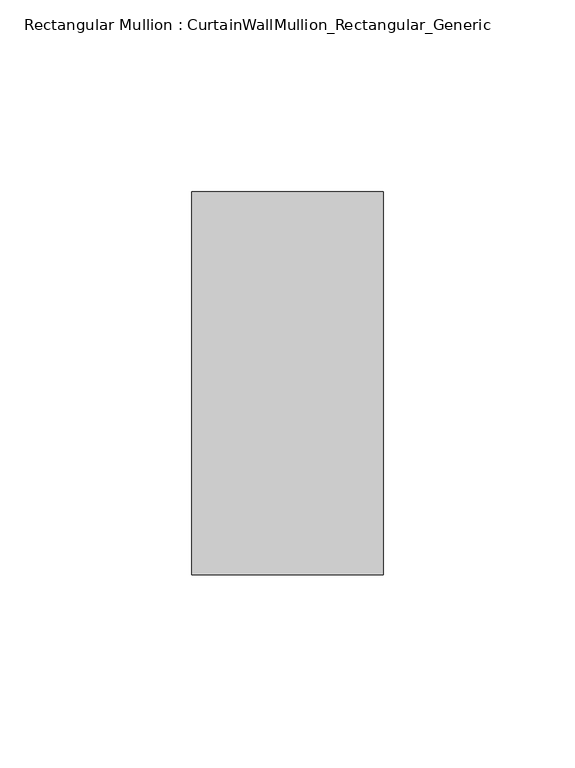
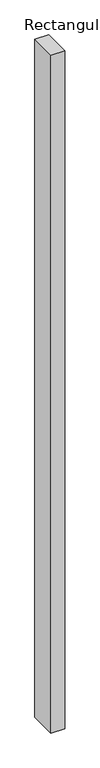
"""IFC4 building model written with IfcOpenShell, lengths in millimetres: member geometry, Rectangular Mullion : CurtainWallMullion_Rectangular_Generic."""

import ifcopenshell
import ifcopenshell.guid

model = None  # the IFC model being written
_history = None  # IfcOwnerHistory: only IFC2X3 demands one
_inside = {}  # id of a spatial element -> (the spatial element, [elements in it])
_under = {}  # id of a project, library or spatial element -> (it, [spatial elements below it])
_declared = {}  # id of a project -> (the project, [libraries it declares])
_typed = {}  # id of a type object -> (the type object, [elements of that type])
_made_of = {}  # id of a material, layer set ... -> (it, [elements and type objects made of it])


def new_model(schema):
    """Start an empty IFC model of exactly this schema.

    Asked for "IFC4X3", IfcOpenShell would pick the latest addendum, in which some entities
    have other attributes; the version numbers below select the first issue.
    IFC2X3 requires an IfcOwnerHistory on every rooted entity: one is made here for all.
    """
    global model, _history
    if schema == "IFC4X3":
        model = ifcopenshell.file(schema_version=(4, 3, 0, 0))
    else:
        model = ifcopenshell.file(schema=schema)
    _inside.clear()
    _under.clear()
    _declared.clear()
    _typed.clear()
    _made_of.clear()
    _history = None
    if model.schema == "IFC2X3":
        org = make("IfcOrganization", Name="unknown")
        user = make(
            "IfcPersonAndOrganization",
            ThePerson=make("IfcPerson", FamilyName="unknown"),
            TheOrganization=org,
        )
        app = make(
            "IfcApplication",
            ApplicationDeveloper=org,
            Version="unknown",
            ApplicationFullName="unknown",
            ApplicationIdentifier="unknown",
        )
        _history = make(
            "IfcOwnerHistory",
            OwningUser=user,
            OwningApplication=app,
            ChangeAction="ADDED",
            CreationDate=0,
        )
    return model


def make(cls, **values):
    """One entity of the class cls with the attributes given. An attribute that is None is left unset."""
    return model.create_entity(
        cls, **{name: value for name, value in values.items() if value is not None}
    )


def rooted(cls, **values):
    """An entity with a GlobalId (a new one), such as an element, a storey or a relation."""
    return make(cls, GlobalId=ifcopenshell.guid.new(), OwnerHistory=_history, **values)


def si_unit(unit_type, name, prefix=None):
    """IfcSIUnit, for example si_unit("LENGTHUNIT", "METRE", prefix="MILLI")."""
    return make("IfcSIUnit", UnitType=unit_type, Prefix=prefix, Name=name)


def assignment(units):
    """IfcUnitAssignment: the units of a project."""
    return None if units is None else make("IfcUnitAssignment", Units=units)


def point(xyz):
    """IfcCartesianPoint."""
    return None if xyz is None else make("IfcCartesianPoint", Coordinates=xyz)


def direction(xyz):
    """IfcDirection."""
    return None if xyz is None else make("IfcDirection", DirectionRatios=xyz)


def frame(location, z_axis=None, x_axis=None):
    """IfcAxis2Placement3D, a coordinate frame: its origin and axes. An axis left out is left unset."""
    return make(
        "IfcAxis2Placement3D",
        Location=point(location),
        Axis=direction(z_axis),
        RefDirection=direction(x_axis),
    )


def origin():
    """The frame at (0, 0, 0) with its axes left unset."""
    return frame((0.0, 0.0, 0.0))


def place(relative_to, where):
    """IfcLocalPlacement: puts the frame where relative to a parent placement (None: the world)."""
    return make(
        "IfcLocalPlacement", PlacementRelTo=relative_to, RelativePlacement=where
    )


def context(
    kind, dimensions, precision=None, world=None, true_north=None, identifier=None
):
    """IfcGeometricRepresentationContext, for example the 3D "Model" context."""
    return make(
        "IfcGeometricRepresentationContext",
        ContextIdentifier=identifier,
        ContextType=kind,
        CoordinateSpaceDimension=dimensions,
        Precision=precision,
        WorldCoordinateSystem=world,
        TrueNorth=true_north,
    )


def project(units=None, contexts=None):
    """IfcProject with its units and contexts."""
    return rooted(
        "IfcProject",
        Name="project",
        RepresentationContexts=contexts,
        UnitsInContext=assignment(units),
    )


def spatial(cls, under=None, at=None, **own):
    """A site, building, storey or space (cls), placed at a placement, below another one or the project."""
    s = rooted(cls, ObjectPlacement=at, **own)
    if under is not None:
        _under.setdefault(under.id(), (under, []))[1].append(s)
    return s


def polyline(points):
    """IfcPolyline through the points."""
    return make("IfcPolyline", Points=[point(p) for p in points])


def outline(outer, holes=None, kind="AREA"):
    """IfcArbitraryClosedProfileDef: a profile drawn as a closed curve; with holes, ...WithVoids."""
    if holes is None:
        return make("IfcArbitraryClosedProfileDef", ProfileType=kind, OuterCurve=outer)
    return make(
        "IfcArbitraryProfileDefWithVoids",
        ProfileType=kind,
        OuterCurve=outer,
        InnerCurves=holes,
    )


def extrude(swept, where, along, depth):
    """IfcExtrudedAreaSolid: the profile swept, set in the frame where, extruded along a direction by depth."""
    return make(
        "IfcExtrudedAreaSolid",
        SweptArea=swept,
        Position=where,
        ExtrudedDirection=direction(along),
        Depth=depth,
    )


def shape(context_of_items, identifier, shape_type, items):
    """IfcShapeRepresentation: the items that make up one representation, for example the "Body"."""
    return make(
        "IfcShapeRepresentation",
        ContextOfItems=context_of_items,
        RepresentationIdentifier=identifier,
        RepresentationType=shape_type,
        Items=items,
    )


def source(mapping_origin, context_of_items, identifier, shape_type, items):
    """IfcRepresentationMap: a shape defined once, which mapped items show again and again."""
    return make(
        "IfcRepresentationMap",
        MappingOrigin=mapping_origin,
        MappedRepresentation=shape(context_of_items, identifier, shape_type, items),
    )


def transform(
    local_origin,
    x_axis=None,
    y_axis=None,
    z_axis=None,
    scale=None,
    scale2=None,
    scale3=None,
    uniform=True,
):
    """IfcCartesianTransformationOperator3D, or its non-uniform kind. x_axis, y_axis, z_axis: its Axis1, 2, 3."""
    if uniform:
        return make(
            "IfcCartesianTransformationOperator3D",
            Axis1=direction(x_axis),
            Axis2=direction(y_axis),
            LocalOrigin=point(local_origin),
            Scale=scale,
            Axis3=direction(z_axis),
        )
    return make(
        "IfcCartesianTransformationOperator3DnonUniform",
        Axis1=direction(x_axis),
        Axis2=direction(y_axis),
        LocalOrigin=point(local_origin),
        Scale=scale,
        Axis3=direction(z_axis),
        Scale2=scale2,
        Scale3=scale3,
    )


def mapped(mapping_source, mapping_target):
    """IfcMappedItem: shows the shape of a source again, moved by a transform."""
    return make(
        "IfcMappedItem", MappingSource=mapping_source, MappingTarget=mapping_target
    )


def made_of(thing, what):
    """Note that an element or type object is made of a material, layer set ...; save() writes the relation."""
    if what is not None:
        _made_of.setdefault(what.id(), (what, []))[1].append(thing)
    return thing


def element(
    cls,
    number,
    at=None,
    inside=None,
    cuts=None,
    type_object=None,
    material=None,
    context=None,
    identifier="Body",
    shape_type=None,
    held_by="IfcProductDefinitionShape",
    body=None,
    shapes=None,
    **own,
):
    """One element of the class cls, such as IfcWall. Its Tag is "e" and its number.

    at: its placement. inside: the storey or other place that contains it. cuts: it is an
    opening in that element (IfcRelVoidsElement). A single representation is given by context,
    identifier, shape_type and body (its items); several are given by shapes. held_by: the class
    of the entity that holds the representations. save() writes the other relations.
    """
    e = rooted(cls, Tag="e%d" % number, ObjectPlacement=at, **own)
    if body is not None:
        shapes = [shape(context, identifier, shape_type, body)]
    if shapes is not None:
        e.Representation = make(held_by, Representations=shapes)
    if inside is not None:
        _inside.setdefault(inside.id(), (inside, []))[1].append(e)
    if cuts is not None:
        rooted(
            "IfcRelVoidsElement", RelatingBuildingElement=cuts, RelatedOpeningElement=e
        )
    if type_object is not None:
        _typed.setdefault(type_object.id(), (type_object, []))[1].append(e)
    return made_of(e, material)


def aggregate(whole, parts):
    """IfcRelAggregates: a whole, such as a stair, and the parts it consists of."""
    return rooted("IfcRelAggregates", RelatingObject=whole, RelatedObjects=parts)


def save(model, path):
    """Write the relations noted so far, then the file.

    IfcRelAggregates (storeys below a building ...), IfcRelContainedInSpatialStructure (elements
    in a storey), IfcRelDefinesByType, IfcRelAssociatesMaterial and IfcRelDeclares: one each for
    every whole, place, type object, material and project.
    """
    for whole, parts in _under.values():
        aggregate(whole, parts)
    for where, things in _inside.values():
        rooted(
            "IfcRelContainedInSpatialStructure",
            RelatedElements=things,
            RelatingStructure=where,
        )
    for kind, things in _typed.values():
        rooted("IfcRelDefinesByType", RelatedObjects=things, RelatingType=kind)
    for what, things in _made_of.values():
        rooted("IfcRelAssociatesMaterial", RelatedObjects=things, RelatingMaterial=what)
    for by, libraries in _declared.values():
        rooted("IfcRelDeclares", RelatingContext=by, RelatedDefinitions=libraries)
    model.write(path)


def rectangular_mullion_curtainwallmullion_rectangular_generic_654ac675(model_context):
    return source(origin(), model_context, "Body", "SweptSolid", [
        extrude(outline(polyline([(25.0, 50.0), (25.0, -50.0), (-25.0, -50.0), (-25.0, 50.0), (25.0, 50.0)])), frame((0.0, 0.0, -2600.0), z_axis=(0.0, 0.0, 1.0), x_axis=(1.0, 0.0, 0.0)), (0.0, 0.0, 1.0), 2600.0),
    ])


if __name__ == "__main__":
    model = new_model("IFC4")
    model_context = context("Model", 3, world=origin())
    ifc_project = project(units=[si_unit("LENGTHUNIT", "METRE", prefix="MILLI")], contexts=[model_context])
    site = spatial("IfcSite", under=ifc_project)
    building = spatial("IfcBuilding", under=site)
    placement = place(None, origin())
    rectangular_mullion_curtainwallmullion_rectangular_generic_shape = rectangular_mullion_curtainwallmullion_rectangular_generic_654ac675(model_context)
    element("IfcMember", 1, ObjectType="Rectangular Mullion : CurtainWallMullion_Rectangular_Generic", at=placement, inside=building, context=model_context, shape_type="MappedRepresentation", body=[
        mapped(rectangular_mullion_curtainwallmullion_rectangular_generic_shape, transform((0.0, 0.0, 0.0), x_axis=(1.0, 0.0, 0.0), y_axis=(0.0, 1.0, 0.0), z_axis=(0.0, 0.0, 1.0))),
    ])
    save(model, "model.ifc")
